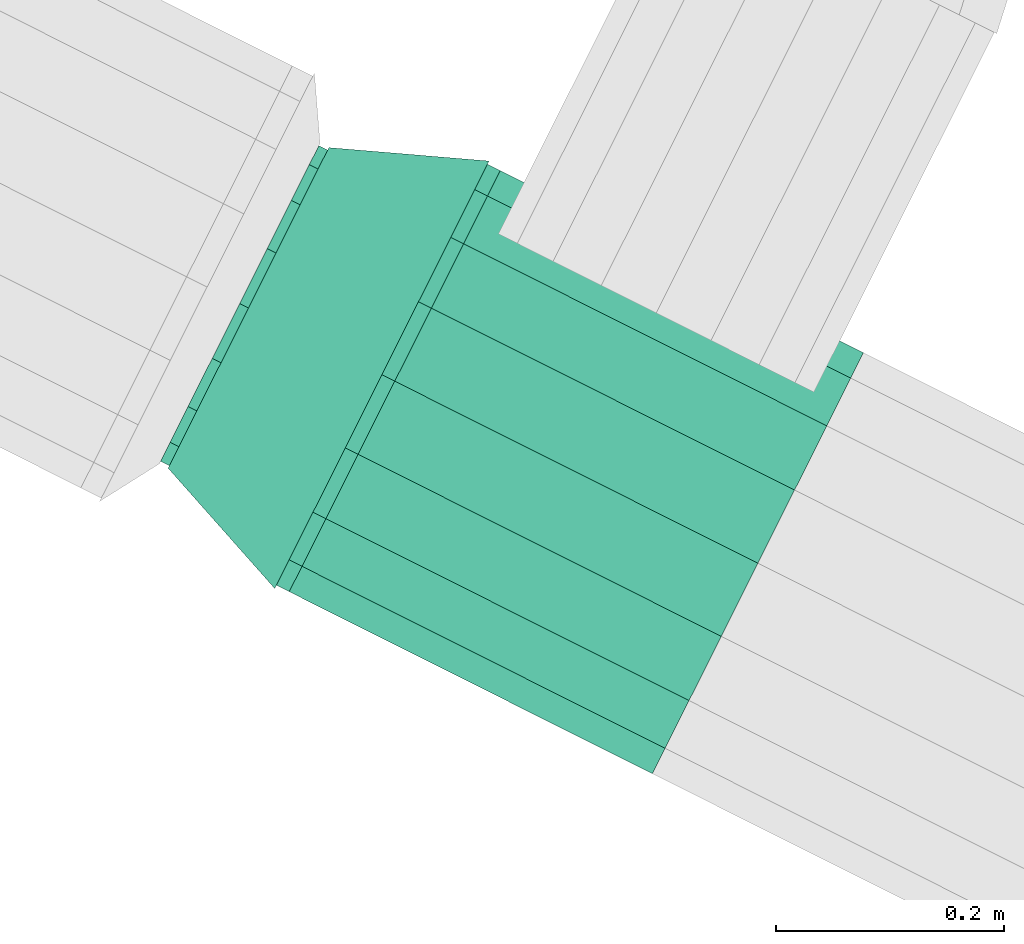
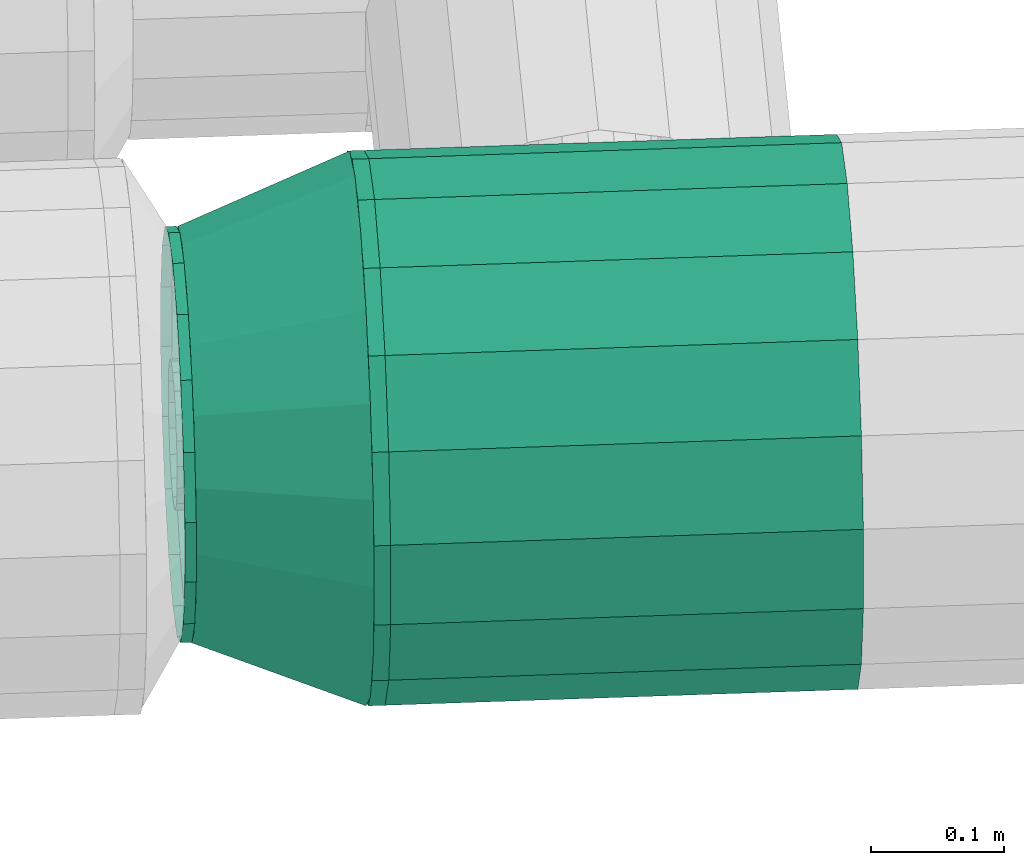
# One storey, part 30 of 152: 2 flow fittings.
"""IFC2X3 building model written with IfcOpenShell, lengths in metres."""

from ifc_helpers import new_model, si_unit, derived_unit, direction, frame, origin, place, context, subcontext, project, spatial, face_set, surface_model, source, transform, mapped, material, type_object, type_shapes, element, save


model = new_model("IFC2X3")

# Units and contexts
model_context = context("Model", 3, precision=5.2338327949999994e-05, world=origin(), true_north=direction((0.0, 1.0)))
body_context = subcontext(model_context, "Body", "Model", "MODEL_VIEW")
ifc_project = project(units=[si_unit("LENGTHUNIT", "METRE"), si_unit("AREAUNIT", "SQUARE_METRE"), si_unit("VOLUMEUNIT", "CUBIC_METRE"), si_unit("MASSUNIT", "GRAM", prefix="KILO"), si_unit("PLANEANGLEUNIT", "RADIAN"), derived_unit("THERMALTRANSMITTANCEUNIT", [(si_unit("MASSUNIT", "GRAM", prefix="KILO"), 1), (si_unit("THERMODYNAMICTEMPERATUREUNIT", "KELVIN"), -1), (si_unit("TIMEUNIT", "SECOND"), -3)])], contexts=[model_context])

# Site, building, storey
site_placement = place(None, frame((0.0, 0.0, 0.0), z_axis=(0.0, 0.0, 1.0), x_axis=(0.8939966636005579, -0.4480736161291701, 0.0)))
site = spatial("IfcSite", under=ifc_project, at=site_placement, Name="Default", CompositionType="ELEMENT")
building_placement = place(site_placement, origin())
building = spatial("IfcBuilding", under=site, at=building_placement, CompositionType="ELEMENT")
storey_placement = place(building_placement, frame((0.0, 0.0, 2.7499999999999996)))
storey = spatial("IfcBuildingStorey", under=building, at=storey_placement, Name="1. Obergeschoss", CompositionType="ELEMENT", Elevation=2.7499999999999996)

# Flow fittings
ifc_material = material(Name="IfcSurfaceStyle #9317")
distribution_element_type_1 = type_object("IfcDistributionElementType", Name="Abzweigstück 263054:Abzweigstück 263054", material=ifc_material)
shared_shape_1 = source(origin(), body_context, "Body", "SurfaceModel", [
    surface_model("IfcFaceBasedSurfaceModel", [(13.827928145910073, 5.856787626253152, 5.52609078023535), (13.827928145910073, 5.819319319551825, 5.532697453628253), (13.471928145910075, 5.819319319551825, 5.532697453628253), (13.471928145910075, 5.856787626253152, 5.52609078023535), (13.827928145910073, 5.786370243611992, 5.5517206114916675), (13.471928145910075, 5.786370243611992, 5.5517206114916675), (13.827928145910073, 5.761914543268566, 5.58086578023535), (13.471928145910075, 5.761914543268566, 5.58086578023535), (13.827928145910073, 5.748901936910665, 5.616617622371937), (13.471928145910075, 5.748901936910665, 5.616617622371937), (13.827928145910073, 5.748901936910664, 5.654663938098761), (13.471928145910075, 5.748901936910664, 5.654663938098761), (13.827928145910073, 5.761914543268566, 5.690415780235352), (13.471928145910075, 5.761914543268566, 5.690415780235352), (13.827928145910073, 5.786370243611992, 5.719560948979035), (13.471928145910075, 5.786370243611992, 5.719560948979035), (13.827928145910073, 5.819319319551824, 5.7385841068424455), (13.471928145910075, 5.819319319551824, 5.7385841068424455), (13.827928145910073, 5.856787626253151, 5.745190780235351), (13.471928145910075, 5.856787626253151, 5.745190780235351), (13.827928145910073, 5.8942559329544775, 5.7385841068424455), (13.471928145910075, 5.8942559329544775, 5.7385841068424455), (13.827928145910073, 5.927205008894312, 5.719560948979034), (13.471928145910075, 5.927205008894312, 5.719560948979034), (13.827928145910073, 5.951660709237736, 5.690415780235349), (13.471928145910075, 5.951660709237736, 5.690415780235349), (13.827928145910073, 5.964673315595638, 5.654663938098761), (13.471928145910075, 5.964673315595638, 5.654663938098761), (13.827928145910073, 5.964673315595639, 5.616617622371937), (13.471928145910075, 5.964673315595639, 5.616617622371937), (13.827928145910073, 5.951660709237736, 5.580865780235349), (13.471928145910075, 5.951660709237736, 5.580865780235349), (13.827928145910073, 5.927205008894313, 5.551720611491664), (13.471928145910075, 5.927205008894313, 5.551720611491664), (13.827928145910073, 5.894255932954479, 5.532697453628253), (13.471928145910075, 5.894255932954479, 5.532697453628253), (13.827928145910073, 5.856787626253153, 5.4260907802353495), (13.827928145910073, 5.785117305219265, 5.438728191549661), (13.471928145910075, 5.785117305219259, 5.438728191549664), (13.471928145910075, 5.856787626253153, 5.426090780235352), (13.827928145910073, 5.7220914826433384, 5.475116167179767), (13.471928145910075, 5.7220914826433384, 5.475116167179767), (13.827928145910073, 5.675312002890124, 5.530865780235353), (13.471928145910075, 5.675312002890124, 5.530865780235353), (13.827928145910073, 5.650421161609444, 5.599252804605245), (13.471928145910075, 5.650421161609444, 5.599252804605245), (13.827928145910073, 5.650421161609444, 5.6720287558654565), (13.471928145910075, 5.650421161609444, 5.6720287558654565), (13.827928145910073, 5.675312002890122, 5.74041578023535), (13.471928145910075, 5.675312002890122, 5.74041578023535), (13.827928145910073, 5.722091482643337, 5.796165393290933), (13.471928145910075, 5.722091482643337, 5.796165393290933), (13.827928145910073, 5.7851173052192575, 5.832553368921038), (13.471928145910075, 5.7851173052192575, 5.832553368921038), (13.827928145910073, 5.856787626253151, 5.845190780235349), (13.471928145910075, 5.856787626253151, 5.845190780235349), (13.827928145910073, 5.928457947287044, 5.832553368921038), (13.471928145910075, 5.928457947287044, 5.832553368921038), (13.827928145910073, 5.991483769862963, 5.7961653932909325), (13.471928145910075, 5.991483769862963, 5.7961653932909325), (13.827928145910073, 6.03826324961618, 5.740415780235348), (13.471928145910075, 6.03826324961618, 5.740415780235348), (13.827928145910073, 6.06315409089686, 5.672028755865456), (13.471928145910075, 6.06315409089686, 5.672028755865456), (13.827928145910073, 6.06315409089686, 5.5992528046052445), (13.471928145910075, 6.06315409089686, 5.5992528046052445), (13.827928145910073, 6.038263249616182, 5.53086578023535), (13.471928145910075, 6.038263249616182, 5.53086578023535), (13.827928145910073, 5.991483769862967, 5.475116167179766), (13.471928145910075, 5.991483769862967, 5.475116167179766), (13.827928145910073, 5.928457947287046, 5.438728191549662), (13.471928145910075, 5.928457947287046, 5.438728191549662), (13.592778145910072, 5.966337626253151, 5.63564078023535), (13.59622471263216, 5.964579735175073, 5.655187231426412), (13.596224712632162, 6.01278762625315, 5.655187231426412), (13.592778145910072, 6.012787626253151, 5.63564078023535), (13.606148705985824, 5.9599947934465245, 5.6723760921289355), (13.606148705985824, 6.012787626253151, 5.672376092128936), (13.621353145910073, 5.95451996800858, 5.685134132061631), (13.621353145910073, 6.012787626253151, 5.685134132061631), (13.64000415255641, 5.9507746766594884, 5.691922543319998), (13.640004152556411, 6.012787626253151, 5.691922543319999), (13.659852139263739, 5.9507746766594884, 5.691922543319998), (13.659852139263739, 6.012787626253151, 5.69192254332), (13.678503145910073, 5.95451996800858, 5.685134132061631), (13.678503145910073, 6.012787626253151, 5.685134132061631), (13.693707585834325, 5.9599947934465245, 5.672376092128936), (13.693707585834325, 6.012787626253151, 5.672376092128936), (13.703631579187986, 5.964579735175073, 5.655187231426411), (13.703631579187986, 6.01278762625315, 5.655187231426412), (13.70707814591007, 5.966337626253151, 5.63564078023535), (13.707078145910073, 6.012787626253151, 5.63564078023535), (13.703631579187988, 5.9645797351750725, 5.616094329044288), (13.703631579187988, 6.012787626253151, 5.616094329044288), (13.693707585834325, 5.9599947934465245, 5.598905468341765), (13.693707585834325, 6.012787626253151, 5.598905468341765), (13.678503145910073, 5.95451996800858, 5.5861474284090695), (13.678503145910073, 6.012787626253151, 5.5861474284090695), (13.65985213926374, 5.95077467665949, 5.579359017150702), (13.659852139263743, 6.012787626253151, 5.579359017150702), (13.640004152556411, 5.95077467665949, 5.579359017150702), (13.640004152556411, 6.012787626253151, 5.579359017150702), (13.621353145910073, 5.95451996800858, 5.58614742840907), (13.621353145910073, 6.012787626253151, 5.58614742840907), (13.606148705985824, 5.9599947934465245, 5.598905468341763), (13.606148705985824, 6.012787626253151, 5.598905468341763), (13.59622471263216, 5.9645797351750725, 5.616094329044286), (13.596224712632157, 6.012787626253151, 5.616094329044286)], [face_set([[[0, 1, 2, 3]], [[1, 4, 5, 2]], [[4, 6, 7, 5]], [[6, 8, 9, 7]], [[8, 10, 11, 9]], [[10, 12, 13, 11]], [[12, 14, 15, 13]], [[14, 16, 17, 15]], [[16, 18, 19, 17]], [[18, 20, 21, 19]], [[20, 22, 23, 21]], [[22, 24, 25, 23]], [[24, 26, 27, 25]], [[26, 28, 29, 27]], [[28, 30, 31, 29]], [[30, 32, 33, 31]], [[32, 34, 35, 33]], [[34, 0, 3, 35]], [[36, 37, 38, 39]], [[37, 40, 41, 38]], [[40, 42, 43, 41]], [[42, 44, 45, 43]], [[44, 46, 47, 45]], [[46, 48, 49, 47]], [[48, 50, 51, 49]], [[50, 52, 53, 51]], [[52, 54, 55, 53]], [[54, 56, 57, 55]], [[56, 58, 59, 57]], [[58, 60, 61, 59]], [[60, 62, 63, 61]], [[62, 64, 65, 63]], [[64, 66, 67, 65]], [[66, 68, 69, 67]], [[68, 70, 71, 69]], [[70, 36, 39, 71]], [[72, 73, 74, 75]], [[73, 76, 77, 74]], [[76, 78, 79, 77]], [[78, 80, 81, 79]], [[80, 82, 83, 81]], [[82, 84, 85, 83]], [[84, 86, 87, 85]], [[86, 88, 89, 87]], [[88, 90, 91, 89]], [[90, 92, 93, 91]], [[92, 94, 95, 93]], [[94, 96, 97, 95]], [[96, 98, 99, 97]], [[98, 100, 101, 99]], [[100, 102, 103, 101]], [[102, 104, 105, 103]], [[104, 106, 107, 105]], [[106, 72, 75, 107]]])]),
])
type_shapes(distribution_element_type_1, [shared_shape_1])
flow_fitting_1_placement = place(storey_placement, frame((0.0, 0.0, -2.7499999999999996)))
element("IfcFlowFitting", 1, at=flow_fitting_1_placement, inside=storey, type_object=distribution_element_type_1, material=ifc_material, Name="Abzweigstück", ObjectType="Abzweigstück", context=body_context, shape_type="MappedRepresentation", body=[
    mapped(shared_shape_1, transform((0.0, 0.0, 0.0), scale=1.0)),
])
distribution_element_type_2 = type_object("IfcDistributionElementType", Name="Übergangsstück 264752:Übergangsstück 264752", material=ifc_material)
shared_shape_2 = source(origin(), body_context, "Body", "SurfaceModel", [
    surface_model("IfcFaceBasedSurfaceModel", [(13.471928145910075, 5.856787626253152, 5.745190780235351), (13.471928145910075, 5.894255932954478, 5.738584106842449), (13.459324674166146, 5.8942559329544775, 5.738584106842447), (13.459324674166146, 5.856787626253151, 5.74519078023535), (13.471928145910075, 5.927205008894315, 5.7195609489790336), (13.459324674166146, 5.927205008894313, 5.719560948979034), (13.471928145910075, 5.951660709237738, 5.690415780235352), (13.459324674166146, 5.951660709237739, 5.690415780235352), (13.471928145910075, 5.964673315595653, 5.654663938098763), (13.459324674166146, 5.964673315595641, 5.654663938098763), (13.471928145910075, 5.964673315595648, 5.616617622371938), (13.459324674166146, 5.964673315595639, 5.616617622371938), (13.471928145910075, 5.95166070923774, 5.580865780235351), (13.459324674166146, 5.951660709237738, 5.58086578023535), (13.471928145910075, 5.927205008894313, 5.551720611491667), (13.459324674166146, 5.927205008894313, 5.551720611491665), (13.471928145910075, 5.894255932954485, 5.532697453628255), (13.459324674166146, 5.89425593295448, 5.532697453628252), (13.471928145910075, 5.856787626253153, 5.526090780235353), (13.459324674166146, 5.856787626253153, 5.526090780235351), (13.471928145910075, 5.819319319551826, 5.532697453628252), (13.459324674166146, 5.819319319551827, 5.532697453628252), (13.471928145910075, 5.786370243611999, 5.551720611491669), (13.459324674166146, 5.7863702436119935, 5.551720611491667), (13.471928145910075, 5.761914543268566, 5.580865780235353), (13.459324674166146, 5.761914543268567, 5.58086578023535), (13.471928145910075, 5.74890193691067, 5.616617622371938), (13.459324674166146, 5.748901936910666, 5.616617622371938), (13.471928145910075, 5.748901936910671, 5.654663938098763), (13.459324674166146, 5.7489019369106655, 5.6546639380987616), (13.471928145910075, 5.761914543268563, 5.690415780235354), (13.459324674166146, 5.761914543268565, 5.690415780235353), (13.471928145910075, 5.786370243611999, 5.719560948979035), (13.459324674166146, 5.786370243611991, 5.719560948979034), (13.471928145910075, 5.81931931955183, 5.738584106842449), (13.459324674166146, 5.819319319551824, 5.738584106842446), (13.459324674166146, 5.966337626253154, 5.63564078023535), (13.459324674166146, 5.95973095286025, 5.598172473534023), (13.32854760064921, 5.9104910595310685, 5.616094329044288), (13.32854760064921, 5.913937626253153, 5.63564078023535), (13.459324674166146, 5.940707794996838, 5.565223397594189), (13.32854760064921, 5.900567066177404, 5.598905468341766), (13.459324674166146, 5.911562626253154, 5.540767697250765), (13.32854760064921, 5.885362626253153, 5.5861474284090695), (13.459324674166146, 5.875810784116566, 5.527755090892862), (13.32854760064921, 5.866711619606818, 5.579359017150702), (13.459324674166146, 5.837764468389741, 5.527755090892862), (13.32854760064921, 5.846863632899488, 5.579359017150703), (13.459324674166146, 5.802012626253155, 5.540767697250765), (13.32854760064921, 5.828212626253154, 5.586147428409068), (13.459324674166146, 5.772867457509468, 5.56522339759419), (13.32854760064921, 5.813008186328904, 5.598905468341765), (13.459324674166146, 5.753844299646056, 5.598172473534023), (13.32854760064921, 5.803084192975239, 5.616094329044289), (13.459324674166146, 5.7472376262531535, 5.63564078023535), (13.32854760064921, 5.799637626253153, 5.63564078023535), (13.459324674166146, 5.753844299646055, 5.673109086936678), (13.32854760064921, 5.803084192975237, 5.655187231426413), (13.459324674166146, 5.772867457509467, 5.70605816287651), (13.32854760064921, 5.813008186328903, 5.672376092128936), (13.459324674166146, 5.802012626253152, 5.730513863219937), (13.32854760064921, 5.828212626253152, 5.6851341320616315), (13.459324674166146, 5.83776446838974, 5.74352646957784), (13.32854760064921, 5.846863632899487, 5.69192254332), (13.459324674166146, 5.875810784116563, 5.74352646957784), (13.32854760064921, 5.866711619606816, 5.69192254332), (13.459324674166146, 5.911562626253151, 5.730513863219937), (13.32854760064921, 5.885362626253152, 5.685134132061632), (13.459324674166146, 5.940707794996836, 5.70605816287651), (13.32854760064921, 5.900567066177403, 5.672376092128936), (13.459324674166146, 5.959730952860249, 5.673109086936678), (13.32854760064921, 5.9104910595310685, 5.655187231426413), (13.32854760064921, 5.856787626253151, 5.69279078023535), (13.32854760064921, 5.8763340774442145, 5.689344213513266), (13.319928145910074, 5.8763340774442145, 5.689344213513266), (13.319928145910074, 5.856787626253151, 5.69279078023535), (13.32854760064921, 5.893522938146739, 5.6794202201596), (13.319928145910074, 5.893522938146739, 5.6794202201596), (13.32854760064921, 5.906280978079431, 5.66421578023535), (13.319928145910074, 5.906280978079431, 5.66421578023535), (13.32854760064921, 5.9130693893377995, 5.645564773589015), (13.319928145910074, 5.9130693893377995, 5.645564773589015), (13.32854760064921, 5.9130693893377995, 5.625716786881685), (13.319928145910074, 5.9130693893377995, 5.625716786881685), (13.32854760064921, 5.906280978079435, 5.60706578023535), (13.319928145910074, 5.906280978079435, 5.60706578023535), (13.32854760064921, 5.893522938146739, 5.5918613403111), (13.319928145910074, 5.893522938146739, 5.5918613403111), (13.32854760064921, 5.876334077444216, 5.581937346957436), (13.319928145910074, 5.876334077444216, 5.581937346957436), (13.32854760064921, 5.856787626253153, 5.57849078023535), (13.319928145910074, 5.856787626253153, 5.57849078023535), (13.32854760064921, 5.837241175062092, 5.581937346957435), (13.319928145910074, 5.837241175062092, 5.581937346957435), (13.32854760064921, 5.820052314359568, 5.5918613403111), (13.319928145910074, 5.820052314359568, 5.5918613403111), (13.32854760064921, 5.807294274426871, 5.60706578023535), (13.319928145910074, 5.807294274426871, 5.60706578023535), (13.32854760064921, 5.800505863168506, 5.625716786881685), (13.319928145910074, 5.800505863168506, 5.625716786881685), (13.32854760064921, 5.800505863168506, 5.645564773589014), (13.319928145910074, 5.800505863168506, 5.645564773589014), (13.32854760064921, 5.807294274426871, 5.66421578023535), (13.319928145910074, 5.807294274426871, 5.66421578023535), (13.32854760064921, 5.820052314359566, 5.6794202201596), (13.319928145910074, 5.820052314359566, 5.6794202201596), (13.32854760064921, 5.837241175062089, 5.689344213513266), (13.319928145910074, 5.837241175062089, 5.689344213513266), (13.471928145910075, 5.856787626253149, 5.845190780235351), (13.471928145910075, 5.92845794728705, 5.832553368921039), (13.459324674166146, 5.928457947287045, 5.832553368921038), (13.459324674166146, 5.856787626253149, 5.845190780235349), (13.471928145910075, 5.991483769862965, 5.7961653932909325), (13.459324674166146, 5.991483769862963, 5.7961653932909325), (13.471928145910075, 6.038263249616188, 5.740415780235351), (13.459324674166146, 6.038263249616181, 5.740415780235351), (13.471928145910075, 6.063154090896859, 5.672028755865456), (13.459324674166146, 6.063154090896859, 5.6720287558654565), (13.471928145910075, 6.063154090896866, 5.5992528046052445), (13.459324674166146, 6.063154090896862, 5.5992528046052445), (13.471928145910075, 6.038263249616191, 5.530865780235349), (13.459324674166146, 6.038263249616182, 5.53086578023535), (13.471928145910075, 5.991483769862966, 5.4751161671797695), (13.459324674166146, 5.991483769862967, 5.4751161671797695), (13.471928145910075, 5.928457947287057, 5.438728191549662), (13.459324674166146, 5.9284579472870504, 5.438728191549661), (13.471928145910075, 5.856787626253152, 5.426090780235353), (13.459324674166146, 5.856787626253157, 5.426090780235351), (13.471928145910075, 5.785117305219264, 5.438728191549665), (13.459324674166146, 5.785117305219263, 5.438728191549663), (13.471928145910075, 5.722091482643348, 5.475116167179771), (13.459324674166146, 5.722091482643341, 5.4751161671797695), (13.471928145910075, 5.675312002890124, 5.530865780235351), (13.459324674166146, 5.6753120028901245, 5.530865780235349), (13.471928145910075, 5.650421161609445, 5.599252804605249), (13.459324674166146, 5.6504211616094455, 5.5992528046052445), (13.471928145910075, 5.65042116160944, 5.672028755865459), (13.459324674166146, 5.6504211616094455, 5.6720287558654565), (13.471928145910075, 5.675312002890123, 5.740415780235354), (13.459324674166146, 5.675312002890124, 5.74041578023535), (13.471928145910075, 5.722091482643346, 5.796165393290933), (13.459324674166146, 5.722091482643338, 5.796165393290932), (13.471928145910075, 5.7851173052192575, 5.832553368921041), (13.459324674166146, 5.785117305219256, 5.832553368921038), (13.459324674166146, 6.066337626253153, 5.63564078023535), (13.459324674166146, 6.05370021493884, 5.563970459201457), (13.32854760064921, 6.00446032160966, 5.581892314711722), (13.32854760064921, 6.0139376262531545, 5.63564078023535), (13.459324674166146, 6.017312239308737, 5.500944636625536), (13.32854760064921, 5.977171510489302, 5.534626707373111), (13.459324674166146, 5.961562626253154, 5.45416515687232), (13.32854760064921, 5.935362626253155, 5.499544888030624), (13.459324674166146, 5.893175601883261, 5.429274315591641), (13.32854760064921, 5.884076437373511, 5.48087824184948), (13.459324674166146, 5.8203996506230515, 5.429274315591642), (13.32854760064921, 5.829498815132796, 5.4808782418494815), (13.459324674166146, 5.752012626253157, 5.454165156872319), (13.32854760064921, 5.778212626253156, 5.4995448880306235), (13.459324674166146, 5.696263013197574, 5.500944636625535), (13.32854760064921, 5.736403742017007, 5.534626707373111), (13.459324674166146, 5.659875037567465, 5.563970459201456), (13.32854760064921, 5.709114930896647, 5.5818923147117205), (13.459324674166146, 5.647237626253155, 5.63564078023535), (13.32854760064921, 5.699637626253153, 5.63564078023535), (13.459324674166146, 5.659875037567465, 5.7073111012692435), (13.32854760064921, 5.7091149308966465, 5.689389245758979), (13.459324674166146, 5.6962630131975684, 5.770336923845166), (13.32854760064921, 5.7364037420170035, 5.7366548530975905), (13.459324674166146, 5.752012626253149, 5.81711640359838), (13.32854760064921, 5.778212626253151, 5.771736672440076), (13.459324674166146, 5.820399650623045, 5.842007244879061), (13.32854760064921, 5.829498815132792, 5.7904033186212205), (13.459324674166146, 5.893175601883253, 5.84200724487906), (13.32854760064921, 5.884076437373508, 5.79040331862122), (13.459324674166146, 5.96156262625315, 5.817116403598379), (13.32854760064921, 5.93536262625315, 5.771736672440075), (13.459324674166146, 6.0173122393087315, 5.770336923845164), (13.32854760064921, 5.977171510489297, 5.7366548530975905), (13.459324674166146, 6.053700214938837, 5.7073111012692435), (13.32854760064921, 6.004460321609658, 5.689389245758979), (13.32854760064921, 5.85678762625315, 5.792790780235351), (13.32854760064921, 5.910536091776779, 5.783313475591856), (13.319928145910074, 5.910536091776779, 5.783313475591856), (13.319928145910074, 5.85678762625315, 5.792790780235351), (13.32854760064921, 5.957801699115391, 5.756024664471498), (13.319928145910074, 5.957801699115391, 5.756024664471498), (13.32854760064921, 5.992883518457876, 5.71421578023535), (13.319928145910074, 5.992883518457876, 5.71421578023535), (13.32854760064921, 6.0115501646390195, 5.662929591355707), (13.319928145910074, 6.0115501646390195, 5.662929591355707), (13.32854760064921, 6.011550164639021, 5.608351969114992), (13.319928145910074, 6.011550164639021, 5.608351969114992), (13.32854760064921, 5.9928835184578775, 5.557065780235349), (13.319928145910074, 5.9928835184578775, 5.557065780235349), (13.32854760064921, 5.957801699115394, 5.515256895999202), (13.319928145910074, 5.957801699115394, 5.515256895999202), (13.32854760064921, 5.910536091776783, 5.487968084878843), (13.319928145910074, 5.910536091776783, 5.487968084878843), (13.32854760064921, 5.856787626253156, 5.478490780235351), (13.319928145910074, 5.856787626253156, 5.478490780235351), (13.32854760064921, 5.803039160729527, 5.487968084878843), (13.319928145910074, 5.803039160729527, 5.487968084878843), (13.32854760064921, 5.755773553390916, 5.515256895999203), (13.319928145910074, 5.755773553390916, 5.515256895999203), (13.32854760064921, 5.720691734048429, 5.557065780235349), (13.319928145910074, 5.720691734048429, 5.557065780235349), (13.32854760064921, 5.702025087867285, 5.608351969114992), (13.319928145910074, 5.702025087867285, 5.608351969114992), (13.32854760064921, 5.702025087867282, 5.662929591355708), (13.319928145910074, 5.702025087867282, 5.662929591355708), (13.32854760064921, 5.720691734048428, 5.71421578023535), (13.319928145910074, 5.720691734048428, 5.71421578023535), (13.32854760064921, 5.755773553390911, 5.756024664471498), (13.319928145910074, 5.755773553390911, 5.756024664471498), (13.32854760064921, 5.803039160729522, 5.783313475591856), (13.319928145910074, 5.803039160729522, 5.783313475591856)], [face_set([[[0, 1, 2, 3]], [[1, 4, 5, 2]], [[4, 6, 7, 5]], [[6, 8, 9, 7]], [[8, 10, 11, 9]], [[10, 12, 13, 11]], [[12, 14, 15, 13]], [[14, 16, 17, 15]], [[16, 18, 19, 17]], [[18, 20, 21, 19]], [[20, 22, 23, 21]], [[22, 24, 25, 23]], [[24, 26, 27, 25]], [[26, 28, 29, 27]], [[28, 30, 31, 29]], [[30, 32, 33, 31]], [[32, 34, 35, 33]], [[34, 0, 3, 35]], [[36, 37, 38, 39]], [[37, 40, 41, 38]], [[40, 42, 43, 41]], [[42, 44, 45, 43]], [[44, 46, 47, 45]], [[46, 48, 49, 47]], [[48, 50, 51, 49]], [[50, 52, 53, 51]], [[52, 54, 55, 53]], [[54, 56, 57, 55]], [[56, 58, 59, 57]], [[58, 60, 61, 59]], [[60, 62, 63, 61]], [[62, 64, 65, 63]], [[64, 66, 67, 65]], [[66, 68, 69, 67]], [[68, 70, 71, 69]], [[70, 36, 39, 71]], [[72, 73, 74, 75]], [[73, 76, 77, 74]], [[76, 78, 79, 77]], [[78, 80, 81, 79]], [[80, 82, 83, 81]], [[82, 84, 85, 83]], [[84, 86, 87, 85]], [[86, 88, 89, 87]], [[88, 90, 91, 89]], [[90, 92, 93, 91]], [[92, 94, 95, 93]], [[94, 96, 97, 95]], [[96, 98, 99, 97]], [[98, 100, 101, 99]], [[100, 102, 103, 101]], [[102, 104, 105, 103]], [[104, 106, 107, 105]], [[106, 72, 75, 107]], [[108, 109, 110, 111]], [[109, 112, 113, 110]], [[112, 114, 115, 113]], [[114, 116, 117, 115]], [[116, 118, 119, 117]], [[118, 120, 121, 119]], [[120, 122, 123, 121]], [[122, 124, 125, 123]], [[124, 126, 127, 125]], [[126, 128, 129, 127]], [[128, 130, 131, 129]], [[130, 132, 133, 131]], [[132, 134, 135, 133]], [[134, 136, 137, 135]], [[136, 138, 139, 137]], [[138, 140, 141, 139]], [[140, 142, 143, 141]], [[142, 108, 111, 143]], [[144, 145, 146, 147]], [[145, 148, 149, 146]], [[148, 150, 151, 149]], [[150, 152, 153, 151]], [[152, 154, 155, 153]], [[154, 156, 157, 155]], [[156, 158, 159, 157]], [[158, 160, 161, 159]], [[160, 162, 163, 161]], [[162, 164, 165, 163]], [[164, 166, 167, 165]], [[166, 168, 169, 167]], [[168, 170, 171, 169]], [[170, 172, 173, 171]], [[172, 174, 175, 173]], [[174, 176, 177, 175]], [[176, 178, 179, 177]], [[178, 144, 147, 179]], [[180, 181, 182, 183]], [[181, 184, 185, 182]], [[184, 186, 187, 185]], [[186, 188, 189, 187]], [[188, 190, 191, 189]], [[190, 192, 193, 191]], [[192, 194, 195, 193]], [[194, 196, 197, 195]], [[196, 198, 199, 197]], [[198, 200, 201, 199]], [[200, 202, 203, 201]], [[202, 204, 205, 203]], [[204, 206, 207, 205]], [[206, 208, 209, 207]], [[208, 210, 211, 209]], [[210, 212, 213, 211]], [[212, 214, 215, 213]], [[214, 180, 183, 215]]])]),
])
type_shapes(distribution_element_type_2, [shared_shape_2])
flow_fitting_2_placement = place(storey_placement, frame((0.0, 0.0, -2.7499999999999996)))
element("IfcFlowFitting", 2, at=flow_fitting_2_placement, inside=storey, type_object=distribution_element_type_2, material=ifc_material, Name="Übergangsstück", ObjectType="Übergangsstück", context=body_context, shape_type="MappedRepresentation", body=[
    mapped(shared_shape_2, transform((0.0, 0.0, 0.0), scale=1.0)),
])

save(model, "model.ifc")
